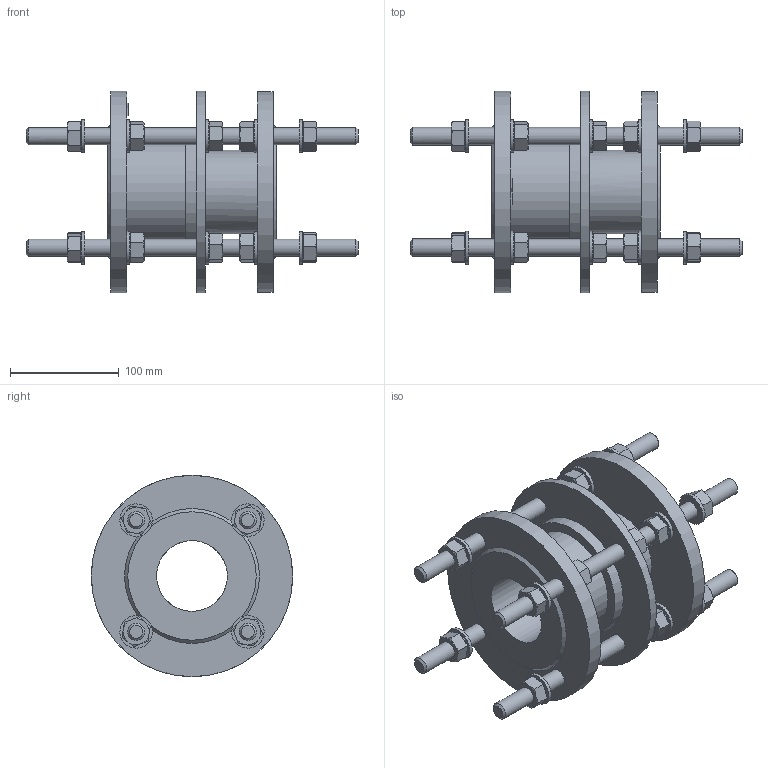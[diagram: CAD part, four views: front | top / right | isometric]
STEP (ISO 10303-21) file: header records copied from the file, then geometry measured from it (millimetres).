
FILE_DESCRIPTION (( 'STEP AP203' ), '1' );
FILE_NAME ('O_265_910_DN65_1XXXXX00_L=155_REV01.step', '2024-10-11T08:04:31', ( '' ), ( '' ), 'SwSTEP 2.0', 'SolidWorks 2022', '' );
FILE_SCHEMA (( 'CONFIG_CONTROL_DESIGN' ));
Length unit declared in the file: millimetre
Products named in the file (1): O_265_910_DN65_1XXXXX00_L=155_REV01
Bounding box: 305 x 185 x 185 mm (x, y, z)
Volume: 1579135.6 mm3; surface area: 287214.4 mm2
Topology: 1 solids, 1 shells, 547 faces, 1203 edges, 725 vertices
Faces by surface type: plane 344, cone 131, cylinder 72
Full cylindrical faces by diameter (mm): 16 x24, 24 x20, 30 x20, 65 x1, 77 x1, 95 x1, 185 x3
Entity records: 15102 total; most frequent: CARTESIAN_POINT 3761, DIRECTION 2319, ORIENTED_EDGE 2170, EDGE_CURVE 1085, AXIS2_PLACEMENT_3D 926, EDGE_LOOP 713, VERTEX_POINT 688, FACE_OUTER_BOUND 617
